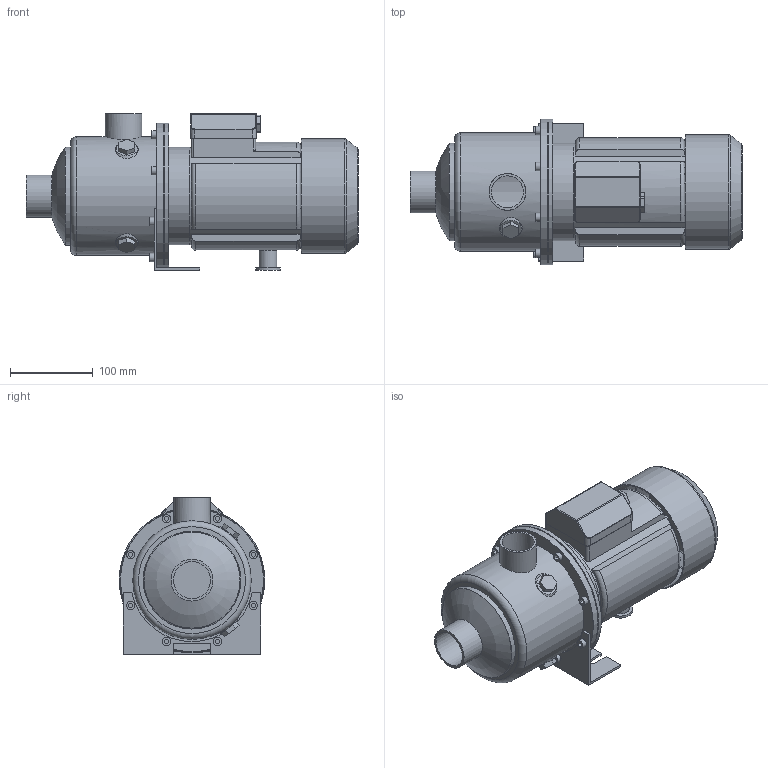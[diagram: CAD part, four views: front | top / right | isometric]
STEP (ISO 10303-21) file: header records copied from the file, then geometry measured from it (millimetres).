
FILE_DESCRIPTION(/* description */ ('Unknown'),/* implementation_level */ '2;1');
FILE_NAME(/* name */ 'MH 9 [2] T',/* time_stamp */ '2026-07-10T15:04:54+02:00',/* author */ ('Unknown'),/* organization */ ('Unknown'),/* preprocessor_version */ 'ST-DEVELOPER v20',/* originating_system */ 'Solid Edge',/* authorisation */ 'Unknown');
FILE_SCHEMA (('AUTOMOTIVE_DESIGN {1 0 10303 214 3 1 1}'));
Length unit declared in the file: millimetre
Products named in the file (10): MH 9 [2] T; Flangia motore Tonda M71; Corpo MH 9 [2-3]; Mot_Wendy_MEC71_075_T; carcassa MEC 71-T_Wendy; Copriventola MEC 71-Wendy; Basetta MEC 71 T-Wendy_new; Piedino MEC 71 int.90; Staffa 3-5-9 int.90
Assembly tree (8 placements, depth 3):
  MH 9 [2] T
    Flangia motore Tonda M71
    Corpo MH 9 [2-3]
    Mot_Wendy_MEC71_075_T
      carcassa MEC 71-T_Wendy
      Copriventola MEC 71-Wendy
      Basetta MEC 71 T-Wendy_new
    Piedino MEC 71 int.90
    Staffa 3-5-9 int.90
  (unnamed)
Bounding box: 402.1 x 176.5 x 190 mm (x, y, z)
Volume: 1443792.1 mm3; surface area: 490992 mm2
Topology: 8 solids, 8 shells, 276 faces, 647 edges, 429 vertices
Faces by surface type: plane 163, cylinder 74, torus 19, cone 14, bspline 4, sphere 2
Full cylindrical faces by diameter (mm): 7 x4, 10 x9, 13.5 x1, 17.5 x1, 21 x1, 30 x1, 38.952 x1, 44.5 x1, 44.845 x1, 50.8 x1, 110 x1, 114 x3, 116.1 x1, 118 x2, 118.5 x1, 136.5 x1, 138.5 x1, 141.1 x1, 143.5 x1, 173.5 x1, 174.1 x1, 176.5 x2
Entity records: 8882 total; most frequent: CARTESIAN_POINT 1617, DIRECTION 1262, ORIENTED_EDGE 1118, EDGE_CURVE 559, AXIS2_PLACEMENT_3D 461, VERTEX_POINT 398, EDGE_LOOP 385, FACE_BOUND 385
